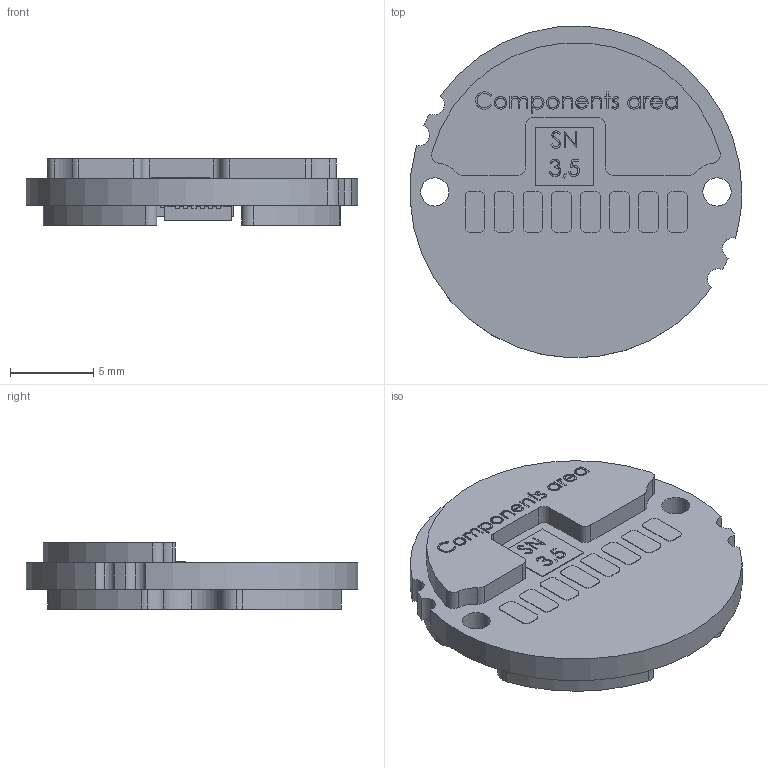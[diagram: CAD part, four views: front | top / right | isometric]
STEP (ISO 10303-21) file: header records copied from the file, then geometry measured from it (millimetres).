
FILE_DESCRIPTION (( 'STEP AP214' ), '1' );
FILE_NAME ('RTB20IC.STEP', '2025-11-20T11:43:52', ( '' ), ( '' ), 'SwSTEP 2.0', 'SolidWorks 2024', '' );
FILE_SCHEMA (( 'AUTOMOTIVE_DESIGN' ));
Length unit declared in the file: millimetre
Products named in the file (1): RTB20IC
Bounding box: 19.99 x 19.98 x 4 mm (x, y, z)
Volume: 818.1 mm3; surface area: 977.1 mm2
Topology: 6 solids, 9 shells, 1455 faces, 4143 edges, 2768 vertices
Faces by surface type: plane 913, bspline 418, cylinder 124
Entity records: 70236 total; most frequent: CARTESIAN_POINT 31502, ORIENTED_EDGE 8286, DIRECTION 5514, EDGE_CURVE 4143, VECTOR 2946, LINE 2946, VERTEX_POINT 2768, EDGE_LOOP 1583
